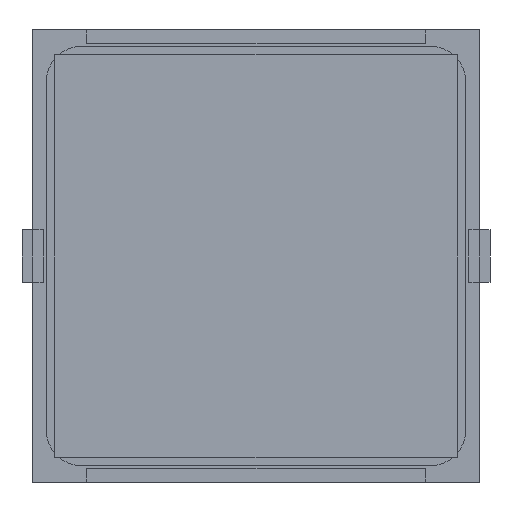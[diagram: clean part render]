
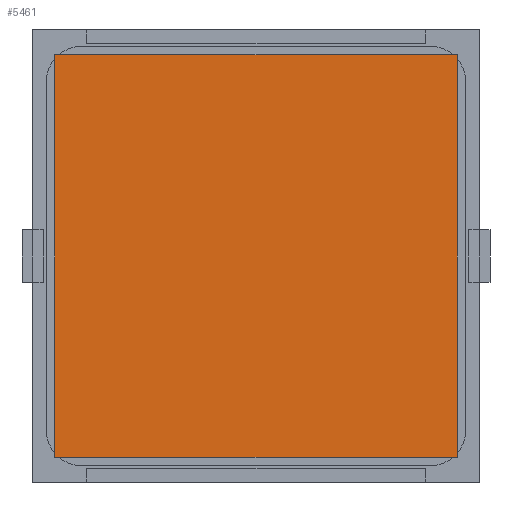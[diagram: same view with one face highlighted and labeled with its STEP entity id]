
A CAD part, front view. The second image highlights one B-rep face of the part: STEP entity #5461.
In plain terms, the highlighted planar face has unit normal (0, -1, 0).
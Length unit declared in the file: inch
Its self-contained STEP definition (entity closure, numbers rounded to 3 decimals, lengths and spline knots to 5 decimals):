
#596 = ORIENTED_EDGE ( 'NONE', *, *, #10606, .F. ) ;
#631 = VECTOR ( 'NONE', #7508, 39.37008 ) ;
#754 = EDGE_CURVE ( 'NONE', #5387, #2595, #8243, .T. ) ;
#1135 = PLANE ( 'NONE',  #9080 ) ;
#1147 = CARTESIAN_POINT ( 'NONE',  ( 0.74803, -0.005, -0.74803 ) ) ;
#1781 = LINE ( 'NONE', #4595, #7266 ) ;
#1977 = CARTESIAN_POINT ( 'NONE',  ( -0.74803, -0.005, 0.74803 ) ) ;
#2208 = DIRECTION ( 'NONE',  ( -1., 0., 0. ) ) ;
#2595 = VERTEX_POINT ( 'NONE', #10434 ) ;
#2999 = VERTEX_POINT ( 'NONE', #1147 ) ;
#4301 = CARTESIAN_POINT ( 'NONE',  ( 0.74803, -0.005, 0.74803 ) ) ;
#4595 = CARTESIAN_POINT ( 'NONE',  ( 0.74803, -0.005, -0.74803 ) ) ;
#4807 = CARTESIAN_POINT ( 'NONE',  ( -0.74803, -0.005, 0.74803 ) ) ;
#5087 = EDGE_CURVE ( 'NONE', #2999, #5387, #5104, .T. ) ;
#5104 = LINE ( 'NONE', #8624, #5989 ) ;
#5387 = VERTEX_POINT ( 'NONE', #8440 ) ;
#5461 = ADVANCED_FACE ( 'NONE', ( #10190 ), #1135, .F. ) ;
#5595 = LINE ( 'NONE', #1977, #631 ) ;
#5989 = VECTOR ( 'NONE', #2208, 39.37008 ) ;
#6192 = ORIENTED_EDGE ( 'NONE', *, *, #754, .F. ) ;
#6747 = ORIENTED_EDGE ( 'NONE', *, *, #7363, .F. ) ;
#7266 = VECTOR ( 'NONE', #7381, 39.37008 ) ;
#7363 = EDGE_CURVE ( 'NONE', #2595, #9207, #5595, .T. ) ;
#7381 = DIRECTION ( 'NONE',  ( 0., 0., -1. ) ) ;
#7403 = DIRECTION ( 'NONE',  ( 0., 1., 0. ) ) ;
#7508 = DIRECTION ( 'NONE',  ( 1., 0., 0. ) ) ;
#8243 = LINE ( 'NONE', #10868, #10359 ) ;
#8440 = CARTESIAN_POINT ( 'NONE',  ( -0.74803, -0.005, -0.74803 ) ) ;
#8624 = CARTESIAN_POINT ( 'NONE',  ( -0.74803, -0.005, -0.74803 ) ) ;
#9080 = AXIS2_PLACEMENT_3D ( 'NONE', #4807, #7403, #10375 ) ;
#9207 = VERTEX_POINT ( 'NONE', #4301 ) ;
#9996 = DIRECTION ( 'NONE',  ( 0., 0., 1. ) ) ;
#10190 = FACE_OUTER_BOUND ( 'NONE', #10511, .T. ) ;
#10359 = VECTOR ( 'NONE', #9996, 39.37008 ) ;
#10375 = DIRECTION ( 'NONE',  ( 0., 0., 1. ) ) ;
#10434 = CARTESIAN_POINT ( 'NONE',  ( -0.74803, -0.005, 0.74803 ) ) ;
#10511 = EDGE_LOOP ( 'NONE', ( #6192, #10948, #596, #6747 ) ) ;
#10606 = EDGE_CURVE ( 'NONE', #9207, #2999, #1781, .T. ) ;
#10868 = CARTESIAN_POINT ( 'NONE',  ( -0.74803, -0.005, -0.74803 ) ) ;
#10948 = ORIENTED_EDGE ( 'NONE', *, *, #5087, .F. ) ;
